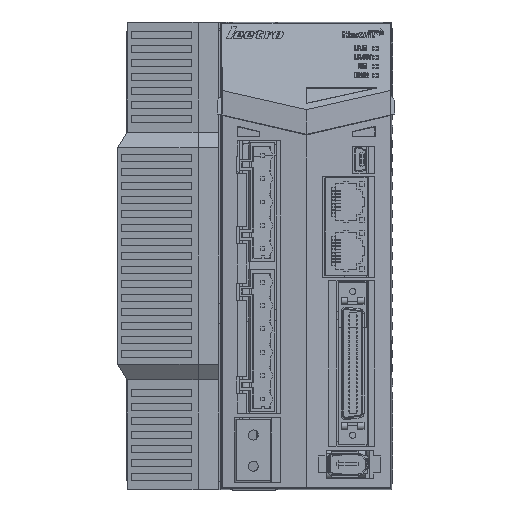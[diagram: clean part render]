
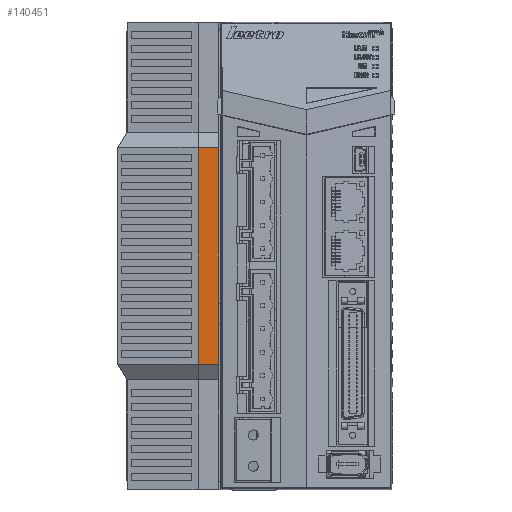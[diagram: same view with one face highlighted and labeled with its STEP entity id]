
A CAD part, front view. The second image highlights one B-rep face of the part: STEP entity #140451.
In plain terms, the highlighted planar face has unit normal (0, -1, 0).
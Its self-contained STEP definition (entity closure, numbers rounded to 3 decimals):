
#2137 = ORIENTED_EDGE ( 'NONE', *, *, #12962, .F. ) ;
#12752 = DIRECTION ( 'NONE',  ( 0., 0., -1. ) ) ;
#12962 = EDGE_CURVE ( 'NONE', #134738, #52765, #156700, .T. ) ;
#27461 = EDGE_CURVE ( 'NONE', #99691, #134738, #62233, .T. ) ;
#40546 = CARTESIAN_POINT ( 'NONE',  ( 114.508, -58.391, 41.82 ) ) ;
#41900 = VECTOR ( 'NONE', #58525, 1000. ) ;
#44395 = DIRECTION ( 'NONE',  ( -1., 0., 0. ) ) ;
#48012 = CARTESIAN_POINT ( 'NONE',  ( 115.298, -58.391, 41.82 ) ) ;
#52765 = VERTEX_POINT ( 'NONE', #145142 ) ;
#57556 = PLANE ( 'NONE',  #182605 ) ;
#58525 = DIRECTION ( 'NONE',  ( 0., 0., 1. ) ) ;
#60475 = CARTESIAN_POINT ( 'NONE',  ( 122.79, -58.391, -34.75 ) ) ;
#62233 = LINE ( 'NONE', #48012, #41900 ) ;
#73917 = VECTOR ( 'NONE', #44395, 1000. ) ;
#84135 = ORIENTED_EDGE ( 'NONE', *, *, #174995, .F. ) ;
#99691 = VERTEX_POINT ( 'NONE', #145753 ) ;
#102809 = VECTOR ( 'NONE', #12752, 1000. ) ;
#103858 = CARTESIAN_POINT ( 'NONE',  ( 115.298, -58.391, 34.75 ) ) ;
#107276 = EDGE_CURVE ( 'NONE', #52765, #160170, #113129, .T. ) ;
#113129 = LINE ( 'NONE', #171831, #102809 ) ;
#114387 = DIRECTION ( 'NONE',  ( 0., 0., -1. ) ) ;
#121990 = ORIENTED_EDGE ( 'NONE', *, *, #27461, .F. ) ;
#125548 = VECTOR ( 'NONE', #144358, 1000. ) ;
#128604 = DIRECTION ( 'NONE',  ( 0., -1., 0. ) ) ;
#129514 = FACE_OUTER_BOUND ( 'NONE', #181011, .T. ) ;
#132425 = LINE ( 'NONE', #60475, #73917 ) ;
#134738 = VERTEX_POINT ( 'NONE', #103858 ) ;
#140451 = ADVANCED_FACE ( 'NONE', ( #129514 ), #57556, .T. ) ;
#141684 = ORIENTED_EDGE ( 'NONE', *, *, #107276, .F. ) ;
#144358 = DIRECTION ( 'NONE',  ( 1., 0., 0. ) ) ;
#145142 = CARTESIAN_POINT ( 'NONE',  ( 122., -58.391, 34.75 ) ) ;
#145298 = CARTESIAN_POINT ( 'NONE',  ( 114.508, -58.391, 34.75 ) ) ;
#145753 = CARTESIAN_POINT ( 'NONE',  ( 115.298, -58.391, -34.75 ) ) ;
#153602 = CARTESIAN_POINT ( 'NONE',  ( 122., -58.391, -34.75 ) ) ;
#156700 = LINE ( 'NONE', #145298, #125548 ) ;
#160170 = VERTEX_POINT ( 'NONE', #153602 ) ;
#171831 = CARTESIAN_POINT ( 'NONE',  ( 122., -58.391, -90.12 ) ) ;
#174995 = EDGE_CURVE ( 'NONE', #160170, #99691, #132425, .T. ) ;
#181011 = EDGE_LOOP ( 'NONE', ( #141684, #2137, #121990, #84135 ) ) ;
#182605 = AXIS2_PLACEMENT_3D ( 'NONE', #40546, #128604, #114387 ) ;
